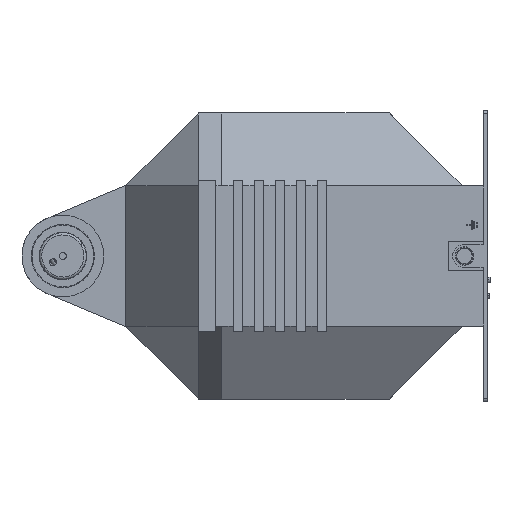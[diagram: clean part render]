
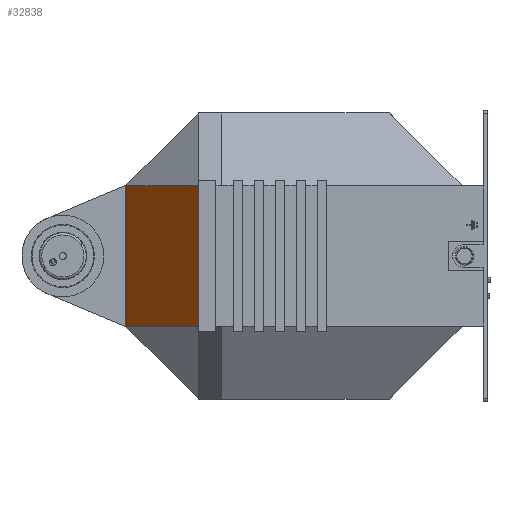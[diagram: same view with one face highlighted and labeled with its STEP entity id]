
A CAD part, left-side view. The second image highlights one B-rep face of the part: STEP entity #32838.
In plain terms, the highlighted planar face has unit normal (-0.613, 0.79, 0).
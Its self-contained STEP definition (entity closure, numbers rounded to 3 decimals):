
#870 = LINE ( 'NONE', #44375, #22284 ) ;
#1395 = CARTESIAN_POINT ( 'NONE',  ( -80., 153., -170. ) ) ;
#2436 = ORIENTED_EDGE ( 'NONE', *, *, #3398, .F. ) ;
#3398 = EDGE_CURVE ( 'NONE', #8279, #12065, #41151, .T. ) ;
#3728 = CARTESIAN_POINT ( 'NONE',  ( -160., 91., 122.5 ) ) ;
#4292 = AXIS2_PLACEMENT_3D ( 'NONE', #1395, #31291, #5678 ) ;
#5678 = DIRECTION ( 'NONE',  ( 0.79, 0.613, 0. ) ) ;
#6493 = LINE ( 'NONE', #43551, #27893 ) ;
#7607 = EDGE_CURVE ( 'NONE', #10645, #48751, #36086, .T. ) ;
#7638 = ORIENTED_EDGE ( 'NONE', *, *, #7607, .T. ) ;
#8279 = VERTEX_POINT ( 'NONE', #41723 ) ;
#10645 = VERTEX_POINT ( 'NONE', #24673 ) ;
#11115 = DIRECTION ( 'NONE',  ( 0., 0., 1. ) ) ;
#11290 = CARTESIAN_POINT ( 'NONE',  ( -160., 91., 60. ) ) ;
#12065 = VERTEX_POINT ( 'NONE', #46697 ) ;
#17402 = ORIENTED_EDGE ( 'NONE', *, *, #33634, .F. ) ;
#18440 = VECTOR ( 'NONE', #11115, 1000. ) ;
#19328 = ORIENTED_EDGE ( 'NONE', *, *, #29464, .T. ) ;
#21696 = FACE_OUTER_BOUND ( 'NONE', #24087, .T. ) ;
#22284 = VECTOR ( 'NONE', #48659, 1000. ) ;
#22707 = PLANE ( 'NONE',  #4292 ) ;
#24087 = EDGE_LOOP ( 'NONE', ( #19328, #2436, #17402, #7638 ) ) ;
#24673 = CARTESIAN_POINT ( 'NONE',  ( -160., 91., -60. ) ) ;
#27893 = VECTOR ( 'NONE', #47832, 1000. ) ;
#28110 = CARTESIAN_POINT ( 'NONE',  ( -80., 153., -170. ) ) ;
#29464 = EDGE_CURVE ( 'NONE', #48751, #12065, #6493, .T. ) ;
#29539 = DIRECTION ( 'NONE',  ( 0., 0., 1. ) ) ;
#31291 = DIRECTION ( 'NONE',  ( 0.613, -0.79, 0. ) ) ;
#32838 = ADVANCED_FACE ( 'NONE', ( #21696 ), #22707, .F. ) ;
#33634 = EDGE_CURVE ( 'NONE', #10645, #8279, #870, .T. ) ;
#36086 = LINE ( 'NONE', #3728, #44727 ) ;
#41151 = LINE ( 'NONE', #28110, #18440 ) ;
#41723 = CARTESIAN_POINT ( 'NONE',  ( -80., 153., -60.5 ) ) ;
#43551 = CARTESIAN_POINT ( 'NONE',  ( -160., 91., 60. ) ) ;
#44375 = CARTESIAN_POINT ( 'NONE',  ( -80., 153., -60.5 ) ) ;
#44727 = VECTOR ( 'NONE', #29539, 1000. ) ;
#46697 = CARTESIAN_POINT ( 'NONE',  ( -80., 153., 60.5 ) ) ;
#47832 = DIRECTION ( 'NONE',  ( 0.79, 0.613, 0.005 ) ) ;
#48659 = DIRECTION ( 'NONE',  ( 0.79, 0.613, -0.005 ) ) ;
#48751 = VERTEX_POINT ( 'NONE', #11290 ) ;
